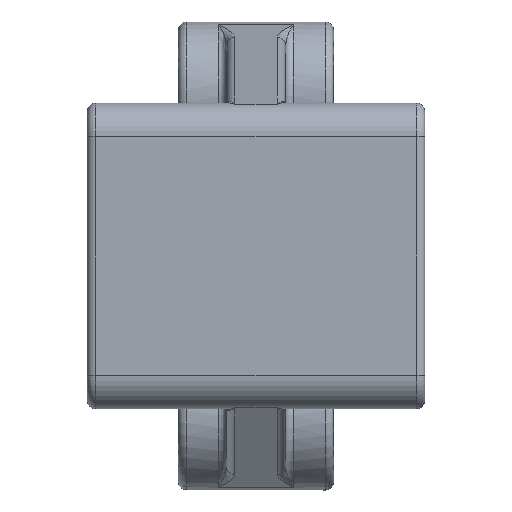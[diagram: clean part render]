
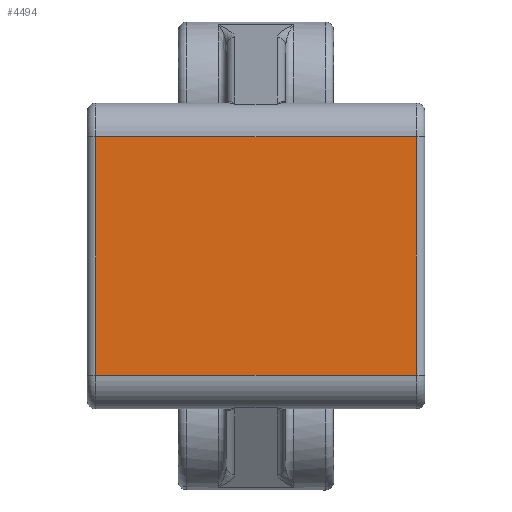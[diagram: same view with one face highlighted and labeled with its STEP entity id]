
A CAD part, front view. The second image highlights one B-rep face of the part: STEP entity #4494.
In plain terms, the highlighted planar face has unit normal (0, -1, 0).
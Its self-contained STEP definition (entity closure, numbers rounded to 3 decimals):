
#835=DIRECTION('',(1.,0.,0.));
#836=VECTOR('',#835,19.);
#837=CARTESIAN_POINT('',(-9.5,-20.25,-7.07));
#838=LINE('',#837,#836);
#1353=DIRECTION('',(-1.,0.,0.));
#1354=VECTOR('',#1353,19.);
#1355=CARTESIAN_POINT('',(9.5,-20.25,7.07));
#1356=LINE('',#1355,#1354);
#1387=DIRECTION('',(0.,0.,1.));
#1388=VECTOR('',#1387,14.14);
#1389=CARTESIAN_POINT('',(-9.5,-20.25,-7.07));
#1390=LINE('',#1389,#1388);
#1391=DIRECTION('',(0.,0.,-1.));
#1392=VECTOR('',#1391,14.14);
#1393=CARTESIAN_POINT('',(9.5,-20.25,7.07));
#1394=LINE('',#1393,#1392);
#1706=CARTESIAN_POINT('',(-9.5,-20.25,7.07));
#1708=VERTEX_POINT('',#1706);
#1716=CARTESIAN_POINT('',(-9.5,-20.25,-7.07));
#1717=VERTEX_POINT('',#1716);
#1734=CARTESIAN_POINT('',(9.5,-20.25,-7.07));
#1736=VERTEX_POINT('',#1734);
#1744=CARTESIAN_POINT('',(9.5,-20.25,7.07));
#1745=VERTEX_POINT('',#1744);
#4482=CARTESIAN_POINT('',(-1.75,-20.25,7.07));
#4483=DIRECTION('',(0.,-1.,0.));
#4484=DIRECTION('',(0.,0.,-1.));
#4485=AXIS2_PLACEMENT_3D('',#4482,#4483,#4484);
#4486=PLANE('',#4485);
#4488=ORIENTED_EDGE('',*,*,#4487,.T.);
#4489=ORIENTED_EDGE('',*,*,#4444,.F.);
#4490=ORIENTED_EDGE('',*,*,#4476,.T.);
#4491=ORIENTED_EDGE('',*,*,#3296,.F.);
#4492=EDGE_LOOP('',(#4488,#4489,#4490,#4491));
#4493=FACE_OUTER_BOUND('',#4492,.F.);
#4494=ADVANCED_FACE('',(#4493),#4486,.T.);
#3296=EDGE_CURVE('',#1717,#1736,#838,.T.);
#4444=EDGE_CURVE('',#1745,#1708,#1356,.T.);
#4476=EDGE_CURVE('',#1745,#1736,#1394,.T.);
#4487=EDGE_CURVE('',#1717,#1708,#1390,.T.);
